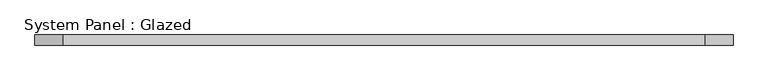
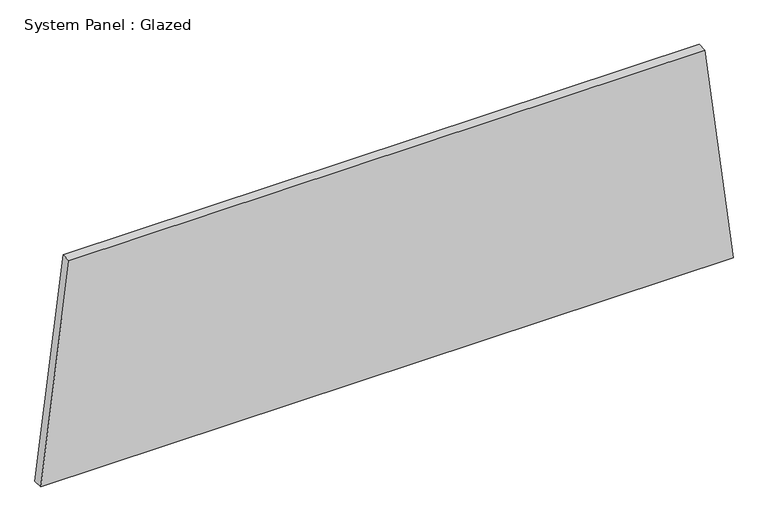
"""IFC4 building model written with IfcOpenShell, lengths in millimetres: plate geometry, System Panel : Glazed."""

from ifc_helpers import new_model, si_unit, frame, origin, place, context, project, spatial, polyline, outline, extrude, source, transform, mapped, element, save


def system_panel_glazed_5b1ce257(model_context):
    return source(origin(), model_context, "Body", "SweptSolid", [
        extrude(outline(polyline([(0.0, -874.5716551), (0.0, 874.5716551), (579.6314374, 803.2065285), (579.6314374, -803.2065285), (0.0, -874.5716551)])), frame((0.0, 19.05, 0.0), z_axis=(0.0, 1.0, 0.0), x_axis=(0.0, 0.0, 1.0)), (0.0, 0.0, 1.0), 25.4),
    ])


if __name__ == "__main__":
    model = new_model("IFC4")
    model_context = context("Model", 3, world=origin())
    ifc_project = project(units=[si_unit("LENGTHUNIT", "METRE", prefix="MILLI")], contexts=[model_context])
    site = spatial("IfcSite", under=ifc_project)
    building = spatial("IfcBuilding", under=site)
    placement = place(None, origin())
    system_panel_glazed_shape = system_panel_glazed_5b1ce257(model_context)
    element("IfcPlate", 1, ObjectType="System Panel : Glazed", at=placement, inside=building, context=model_context, shape_type="MappedRepresentation", body=[
        mapped(system_panel_glazed_shape, transform((0.0, 0.0, 0.0), x_axis=(1.0, 0.0, 0.0), y_axis=(0.0, 1.0, 0.0), z_axis=(0.0, 0.0, 1.0))),
    ])
    save(model, "model.ifc")
